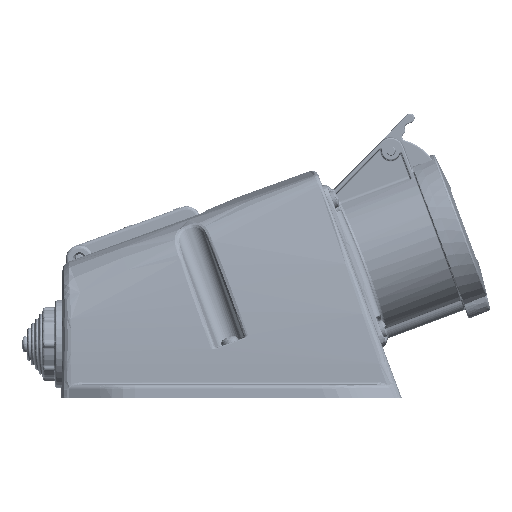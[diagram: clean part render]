
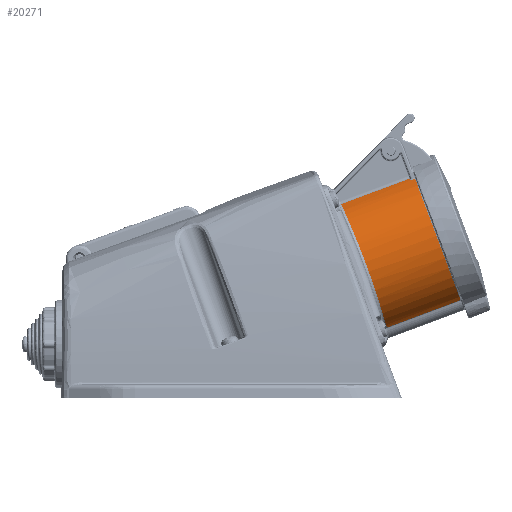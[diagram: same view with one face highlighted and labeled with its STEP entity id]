
A CAD part, left-side view. The second image highlights one B-rep face of the part: STEP entity #20271.
In plain terms, the highlighted cylindrical face has radius 30.7 mm (diameter 61.4 mm), a partial arc.
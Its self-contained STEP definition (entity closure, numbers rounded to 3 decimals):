
#1052=ELLIPSE('',#72443,30.821,30.7);
#2747=CYLINDRICAL_SURFACE('',#72453,30.7);
#6524=LINE('',#191229,#10536);
#6525=LINE('',#191276,#10537);
#6526=LINE('',#191280,#10538);
#10536=VECTOR('',#86674,1.);
#10537=VECTOR('',#86683,1.);
#10538=VECTOR('',#86690,1.);
#16297=FACE_OUTER_BOUND('',#29041,.T.);
#20271=ADVANCED_FACE('',(#16297),#2747,.T.);
#23937=B_SPLINE_CURVE_WITH_KNOTS('',3,(#191246,#191247,#191248,#191249,
#191250,#191251,#191252,#191253,#191254,#191255,#191256,#191257,#191258,
#191259,#191260,#191261),.UNSPECIFIED.,.F.,.F.,(4,3,3,3,3,4),(0.,0.189,
0.382,0.592,0.871,1.),.UNSPECIFIED.);
#23938=B_SPLINE_CURVE_WITH_KNOTS('',3,(#191284,#191285,#191286,#191287),
 .UNSPECIFIED.,.F.,.F.,(4,4),(0.,1.),.UNSPECIFIED.);
#23942=B_SPLINE_CURVE_WITH_KNOTS('',3,(#191381,#191382,#191383,#191384,
#191385,#191386,#191387,#191388,#191389,#191390,#191391,#191392,#191393,
#191394),.UNSPECIFIED.,.F.,.F.,(4,2,2,2,2,2,4),(0.,0.125,0.25,0.5,0.75,
0.875,1.),.UNSPECIFIED.);
#29041=EDGE_LOOP('',(#47089,#47090,#47091,#47092,#47093,#47094,#47095,#47096));
#47089=ORIENTED_EDGE('',*,*,#64645,.T.);
#47090=ORIENTED_EDGE('',*,*,#64639,.T.);
#47091=ORIENTED_EDGE('',*,*,#64637,.T.);
#47092=ORIENTED_EDGE('',*,*,#64636,.T.);
#47093=ORIENTED_EDGE('',*,*,#64635,.T.);
#47094=ORIENTED_EDGE('',*,*,#64633,.T.);
#47095=ORIENTED_EDGE('',*,*,#64632,.T.);
#47096=ORIENTED_EDGE('',*,*,#64630,.T.);
#55135=VERTEX_POINT('',#190869);
#55139=VERTEX_POINT('',#190915);
#55140=VERTEX_POINT('',#190922);
#55153=VERTEX_POINT('',#191228);
#55154=VERTEX_POINT('',#191232);
#55155=VERTEX_POINT('',#191262);
#55156=VERTEX_POINT('',#191281);
#55157=VERTEX_POINT('',#191288);
#64630=EDGE_CURVE('',#55135,#55153,#6524,.T.);
#64632=EDGE_CURVE('',#55154,#55135,#1052,.T.);
#64633=EDGE_CURVE('',#55155,#55154,#23937,.T.);
#64635=EDGE_CURVE('',#55139,#55155,#6525,.T.);
#64636=EDGE_CURVE('',#55140,#55139,#67254,.T.);
#64637=EDGE_CURVE('',#55156,#55140,#6526,.T.);
#64639=EDGE_CURVE('',#55157,#55156,#23938,.T.);
#64645=EDGE_CURVE('',#55153,#55157,#23942,.T.);
#67254=CIRCLE('',#72446,30.7);
#72443=AXIS2_PLACEMENT_3D('',#191233,#86679,#86680);
#72446=AXIS2_PLACEMENT_3D('',#191278,#86686,#86687);
#72453=AXIS2_PLACEMENT_3D('',#191395,#86701,#86702);
#86674=DIRECTION('',(0.,0.937,-0.35));
#86679=DIRECTION('',(-0.089,0.933,-0.349));
#86680=DIRECTION('',(0.996,0.083,-0.031));
#86683=DIRECTION('',(0.,0.937,-0.35));
#86686=DIRECTION('',(0.,0.937,-0.35));
#86687=DIRECTION('',(1.,0.,0.));
#86690=DIRECTION('',(0.,-0.937,0.35));
#86701=DIRECTION('',(0.,0.937,-0.35));
#86702=DIRECTION('',(0.171,0.345,0.923));
#190869=CARTESIAN_POINT('',(-0.876,-72.002,85.314));
#190915=CARTESIAN_POINT('',(-2.333,-74.444,85.315));
#190922=CARTESIAN_POINT('',(8.202,-94.133,32.654));
#191228=CARTESIAN_POINT('',(-0.876,-42.398,74.245));
#191229=CARTESIAN_POINT('',(-0.876,-57.994,80.076));
#191232=CARTESIAN_POINT('',(-1.435,-72.159,85.036));
#191233=CARTESIAN_POINT('',(13.902,-80.195,59.648));
#191246=CARTESIAN_POINT('',(-2.333,-73.281,84.881));
#191247=CARTESIAN_POINT('',(-2.333,-73.188,84.846));
#191248=CARTESIAN_POINT('',(-2.318,-73.09,84.819));
#191249=CARTESIAN_POINT('',(-2.29,-72.997,84.803));
#191250=CARTESIAN_POINT('',(-2.261,-72.9,84.786));
#191251=CARTESIAN_POINT('',(-2.217,-72.805,84.78));
#191252=CARTESIAN_POINT('',(-2.164,-72.719,84.782));
#191253=CARTESIAN_POINT('',(-2.106,-72.625,84.785));
#191254=CARTESIAN_POINT('',(-2.034,-72.537,84.799));
#191255=CARTESIAN_POINT('',(-1.956,-72.462,84.821));
#191256=CARTESIAN_POINT('',(-1.852,-72.363,84.851));
#191257=CARTESIAN_POINT('',(-1.733,-72.282,84.897));
#191258=CARTESIAN_POINT('',(-1.61,-72.225,84.952));
#191259=CARTESIAN_POINT('',(-1.553,-72.198,84.978));
#191260=CARTESIAN_POINT('',(-1.494,-72.176,85.006));
#191261=CARTESIAN_POINT('',(-1.435,-72.159,85.036));
#191262=CARTESIAN_POINT('',(-2.333,-73.281,84.881));
#191276=CARTESIAN_POINT('',(-2.333,-67.419,82.689));
#191278=CARTESIAN_POINT('',(13.902,-83.569,60.91));
#191280=CARTESIAN_POINT('',(8.202,-87.108,30.027));
#191281=CARTESIAN_POINT('',(8.202,-62.219,20.722));
#191284=CARTESIAN_POINT('',(8.201,-62.19,20.711));
#191285=CARTESIAN_POINT('',(8.202,-62.2,20.715));
#191286=CARTESIAN_POINT('',(8.202,-62.209,20.718));
#191287=CARTESIAN_POINT('',(8.202,-62.219,20.722));
#191288=CARTESIAN_POINT('',(8.201,-62.19,20.711));
#191381=CARTESIAN_POINT('',(-0.876,-42.398,74.245));
#191382=CARTESIAN_POINT('',(-3.651,-43.029,72.854));
#191383=CARTESIAN_POINT('',(-6.124,-43.816,71.116));
#191384=CARTESIAN_POINT('',(-10.474,-45.658,66.941));
#191385=CARTESIAN_POINT('',(-12.277,-46.686,64.565));
#191386=CARTESIAN_POINT('',(-16.424,-49.947,56.759));
#191387=CARTESIAN_POINT('',(-17.398,-52.318,50.689));
#191388=CARTESIAN_POINT('',(-15.441,-56.486,39.063));
#191389=CARTESIAN_POINT('',(-12.477,-58.316,33.426));
#191390=CARTESIAN_POINT('',(-5.957,-60.302,26.996));
#191391=CARTESIAN_POINT('',(-3.404,-60.856,25.141));
#191392=CARTESIAN_POINT('',(2.098,-61.705,22.296));
#191393=CARTESIAN_POINT('',(5.088,-62.01,21.272));
#191394=CARTESIAN_POINT('',(8.201,-62.19,20.711));
#191395=CARTESIAN_POINT('',(13.902,-76.544,58.283));
